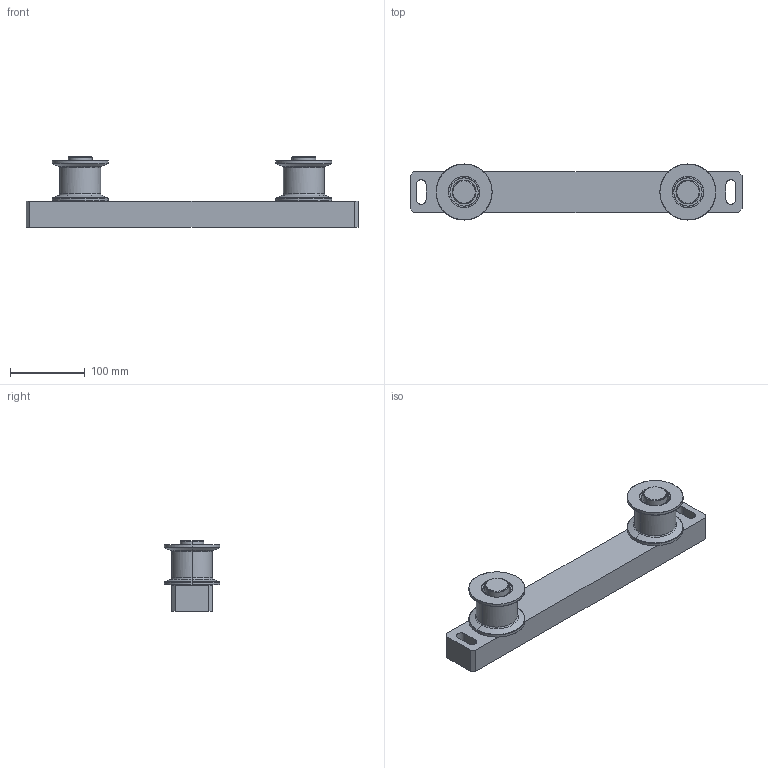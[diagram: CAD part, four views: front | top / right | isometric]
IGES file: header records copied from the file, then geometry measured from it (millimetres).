
Global section: file name: E:\UnigraphicsGraphicData\MISUMI_PRESS-PARTS\IGES\3d_gdrtbw55-38_03793_r00.igs; native system: NX V5.0; preprocessor: UGS NX IGES V5.0; author: MISUMI; date: 20110105.160710; units: millimetre
Bounding box: 445 x 75 x 95 mm (x, y, z)
Surface area: 166208.5 mm2 (no closed solid volume)
Topology: 0 solids, 0 shells, 172 faces, 1672 edges, 1672 vertices
Faces by surface type: bspline 172
